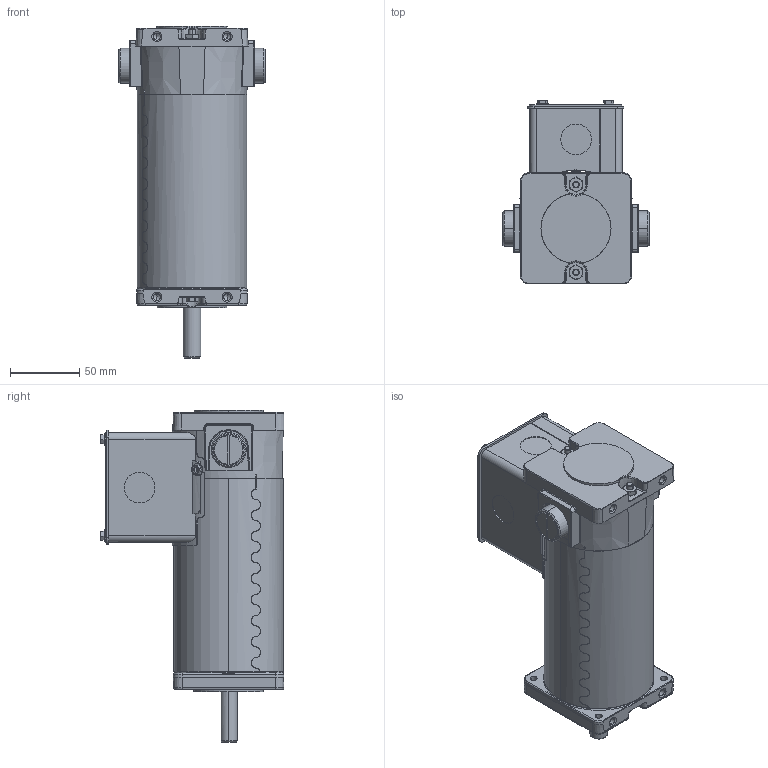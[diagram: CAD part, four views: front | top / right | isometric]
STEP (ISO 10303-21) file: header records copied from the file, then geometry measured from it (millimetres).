
FILE_DESCRIPTION (( 'STEP AP203' ), '1' );
FILE_NAME ('M1031040-M1120046_Rev02.STEP', '2017-09-05T07:04:24', ( '' ), ( '' ), 'SwSTEP 2.0', 'SolidWorks 2015', '' );
FILE_SCHEMA (( 'CONFIG_CONTROL_DESIGN' ));
Products named in the file (1): M1031040-M1120046_Rev02
Bounding box: 105.66 x 132.83 x 240.17 mm (x, y, z)
Volume: 388402 mm3; surface area: 232693.2 mm2
Topology: 24 solids, 24 shells, 1925 faces, 4884 edges, 3029 vertices
Faces by surface type: plane 667, cylinder 496, bspline 303, cone 189, torus 166, sphere 104
Entity records: 73850 total; most frequent: CARTESIAN_POINT 30018, ORIENTED_EDGE 9696, DIRECTION 8446, EDGE_CURVE 4848, AXIS2_PLACEMENT_3D 3324, VERTEX_POINT 3029, EDGE_LOOP 2083, ADVANCED_FACE 1925
